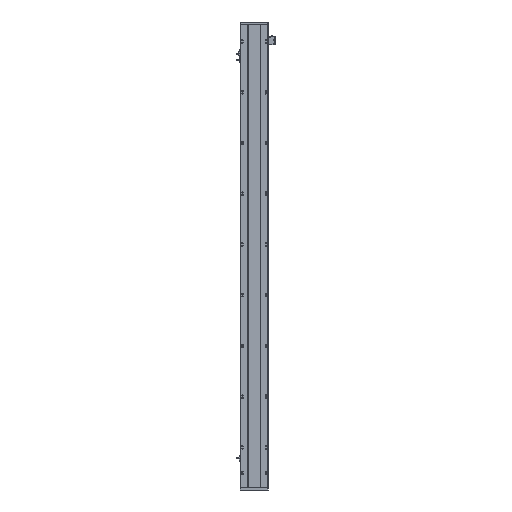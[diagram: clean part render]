
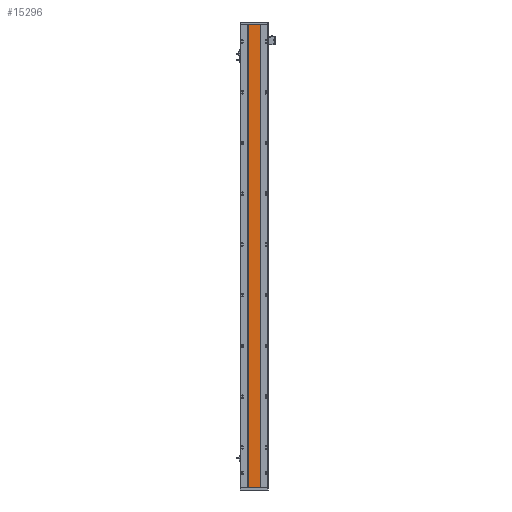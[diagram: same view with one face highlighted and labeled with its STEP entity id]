
A CAD part, front view. The second image highlights one B-rep face of the part: STEP entity #15296.
In plain terms, the highlighted planar face has unit normal (0, -1, 0).
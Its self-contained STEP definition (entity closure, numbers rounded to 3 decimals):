
#2498 = EDGE_CURVE ( 'NONE', #11726, #30416, #18641, .T. ) ;
#3156 = VECTOR ( 'NONE', #15258, 1000. ) ;
#5716 = DIRECTION ( 'NONE',  ( 1., 0., 0. ) ) ;
#5769 = LINE ( 'NONE', #10740, #3156 ) ;
#6403 = AXIS2_PLACEMENT_3D ( 'NONE', #25514, #13862, #6537 ) ;
#6537 = DIRECTION ( 'NONE',  ( -1., 0., 0. ) ) ;
#6562 = DIRECTION ( 'NONE',  ( 0., 0., -1. ) ) ;
#8406 = CARTESIAN_POINT ( 'NONE',  ( 133.07, 115.96, 0. ) ) ;
#8774 = ORIENTED_EDGE ( 'NONE', *, *, #11643, .F. ) ;
#8951 = LINE ( 'NONE', #18334, #22267 ) ;
#9040 = ORIENTED_EDGE ( 'NONE', *, *, #13441, .F. ) ;
#10026 = CARTESIAN_POINT ( 'NONE',  ( 0., 115.96, 0. ) ) ;
#10243 = VERTEX_POINT ( 'NONE', #11950 ) ;
#10740 = CARTESIAN_POINT ( 'NONE',  ( 183.063, 115.96, 1972. ) ) ;
#11061 = VECTOR ( 'NONE', #5716, 1000. ) ;
#11643 = EDGE_CURVE ( 'NONE', #10243, #29905, #25082, .T. ) ;
#11726 = VERTEX_POINT ( 'NONE', #8406 ) ;
#11950 = CARTESIAN_POINT ( 'NONE',  ( 133.07, 115.96, 1972. ) ) ;
#13441 = EDGE_CURVE ( 'NONE', #29905, #30416, #5769, .T. ) ;
#13862 = DIRECTION ( 'NONE',  ( 0., 1., 0. ) ) ;
#14228 = VECTOR ( 'NONE', #26524, 1000. ) ;
#15152 = ORIENTED_EDGE ( 'NONE', *, *, #2498, .T. ) ;
#15258 = DIRECTION ( 'NONE',  ( 0., 0., -1. ) ) ;
#15296 = ADVANCED_FACE ( 'NONE', ( #18743 ), #15930, .F. ) ;
#15930 = PLANE ( 'NONE',  #6403 ) ;
#16104 = CARTESIAN_POINT ( 'NONE',  ( 183.063, 115.96, 1972. ) ) ;
#18334 = CARTESIAN_POINT ( 'NONE',  ( 133.07, 115.96, 1972. ) ) ;
#18641 = LINE ( 'NONE', #10026, #14228 ) ;
#18675 = EDGE_CURVE ( 'NONE', #10243, #11726, #8951, .T. ) ;
#18743 = FACE_OUTER_BOUND ( 'NONE', #24197, .T. ) ;
#22123 = CARTESIAN_POINT ( 'NONE',  ( 0., 115.96, 1972. ) ) ;
#22267 = VECTOR ( 'NONE', #6562, 1000. ) ;
#22480 = ORIENTED_EDGE ( 'NONE', *, *, #18675, .T. ) ;
#24197 = EDGE_LOOP ( 'NONE', ( #15152, #9040, #8774, #22480 ) ) ;
#25082 = LINE ( 'NONE', #22123, #11061 ) ;
#25358 = CARTESIAN_POINT ( 'NONE',  ( 183.063, 115.96, 0. ) ) ;
#25514 = CARTESIAN_POINT ( 'NONE',  ( 0., 115.96, 1972. ) ) ;
#26524 = DIRECTION ( 'NONE',  ( 1., 0., 0. ) ) ;
#29905 = VERTEX_POINT ( 'NONE', #16104 ) ;
#30416 = VERTEX_POINT ( 'NONE', #25358 ) ;
